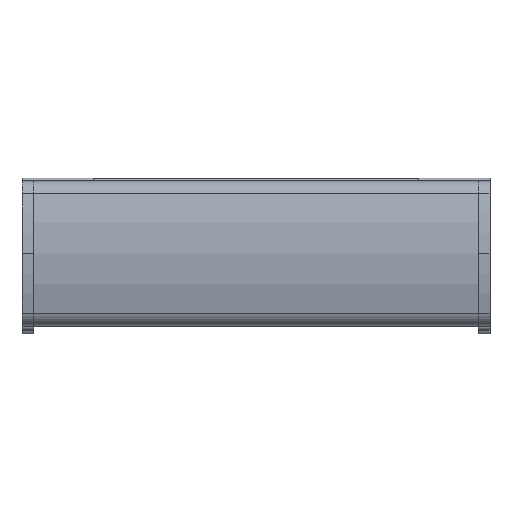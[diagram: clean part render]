
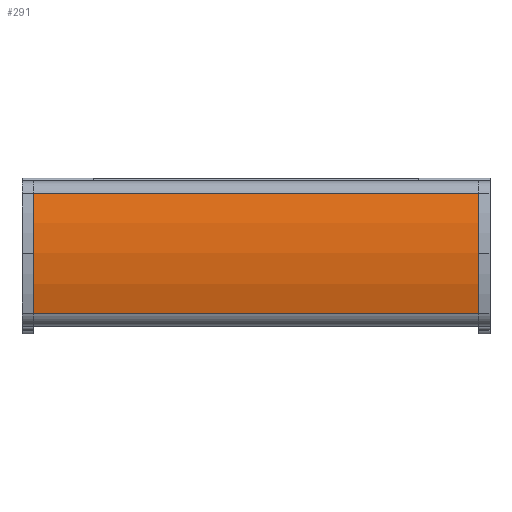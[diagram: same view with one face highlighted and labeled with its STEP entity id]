
A CAD part, top view. The second image highlights one B-rep face of the part: STEP entity #291.
In plain terms, the highlighted cylindrical face has radius 62.373 mm (diameter 124.746 mm), a partial arc.
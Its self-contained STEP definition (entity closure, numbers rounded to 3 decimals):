
#291 = ADVANCED_FACE ( 'NONE', ( #8725 ), #8737, .T. ) ;
#2855 = EDGE_LOOP ( 'NONE', ( #14501, #14503, #14507, #14510 ) ) ;
#3507 = EDGE_CURVE ( 'NONE', #4186, #4187, #24247, .T. ) ;
#3539 = EDGE_CURVE ( 'NONE', #4205, #4204, #24286, .T. ) ;
#3609 = EDGE_CURVE ( 'NONE', #4186, #4205, #24374, .T. ) ;
#3611 = EDGE_CURVE ( 'NONE', #4187, #4204, #24398, .T. ) ;
#4186 = VERTEX_POINT ( 'NONE', #25186 ) ;
#4187 = VERTEX_POINT ( 'NONE', #25187 ) ;
#4204 = VERTEX_POINT ( 'NONE', #25204 ) ;
#4205 = VERTEX_POINT ( 'NONE', #25205 ) ;
#8176 = AXIS2_PLACEMENT_3D ( 'NONE', #9755, #9754, #9752 ) ;
#8725 = FACE_OUTER_BOUND ( 'NONE', #2855, .T. ) ;
#8737 = CYLINDRICAL_SURFACE ( 'NONE', #8176, 62.373 ) ;
#9752 = DIRECTION ( 'NONE',  ( 0., 0., -1. ) ) ;
#9754 = DIRECTION ( 'NONE',  ( 1., 0., 0. ) ) ;
#9755 = CARTESIAN_POINT ( 'NONE',  ( -111.088, 12.55, -37.773 ) ) ;
#14501 = ORIENTED_EDGE ( 'NONE', *, *, #3507, .F. ) ;
#14503 = ORIENTED_EDGE ( 'NONE', *, *, #3609, .T. ) ;
#14507 = ORIENTED_EDGE ( 'NONE', *, *, #3539, .T. ) ;
#14510 = ORIENTED_EDGE ( 'NONE', *, *, #3611, .F. ) ;
#16440 = AXIS2_PLACEMENT_3D ( 'NONE', #23394, #23415, #23416 ) ;
#16444 = AXIS2_PLACEMENT_3D ( 'NONE', #23586, #23588, #23589 ) ;
#23394 = CARTESIAN_POINT ( 'NONE',  ( -63., 12.55, -37.773 ) ) ;
#23415 = DIRECTION ( 'NONE',  ( -1., 0., 0. ) ) ;
#23416 = DIRECTION ( 'NONE',  ( 0., 0., 1. ) ) ;
#23586 = CARTESIAN_POINT ( 'NONE',  ( 63., 12.55, -37.773 ) ) ;
#23588 = DIRECTION ( 'NONE',  ( -1., 0., 0. ) ) ;
#23589 = DIRECTION ( 'NONE',  ( 0., 0., 1. ) ) ;
#23759 = CARTESIAN_POINT ( 'NONE',  ( -111.088, -4.41, 22.25 ) ) ;
#23760 = DIRECTION ( 'NONE',  ( 1., 0., 0. ) ) ;
#23763 = CARTESIAN_POINT ( 'NONE',  ( -111.088, 29.51, 22.25 ) ) ;
#23764 = DIRECTION ( 'NONE',  ( 1., 0., 0. ) ) ;
#24247 = CIRCLE ( 'NONE', #16440, 62.373 ) ;
#24286 = CIRCLE ( 'NONE', #16444, 62.373 ) ;
#24374 = LINE ( 'NONE', #23759, #24392 ) ;
#24392 = VECTOR ( 'NONE', #23760, 1000. ) ;
#24398 = LINE ( 'NONE', #23763, #24408 ) ;
#24408 = VECTOR ( 'NONE', #23764, 1000. ) ;
#25186 = CARTESIAN_POINT ( 'NONE',  ( -63., -4.41, 22.25 ) ) ;
#25187 = CARTESIAN_POINT ( 'NONE',  ( -63., 29.51, 22.25 ) ) ;
#25204 = CARTESIAN_POINT ( 'NONE',  ( 63., 29.51, 22.25 ) ) ;
#25205 = CARTESIAN_POINT ( 'NONE',  ( 63., -4.41, 22.25 ) ) ;
